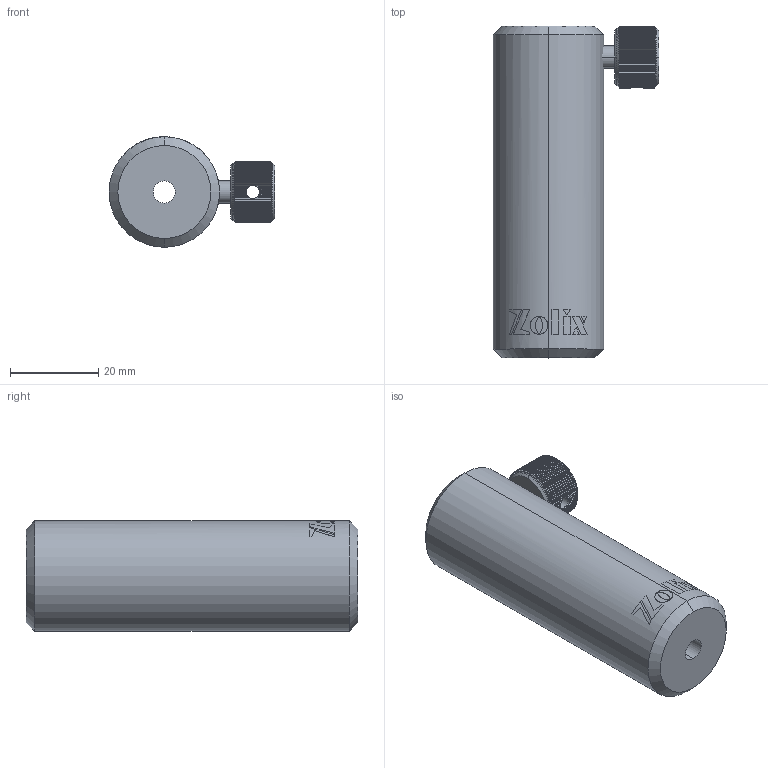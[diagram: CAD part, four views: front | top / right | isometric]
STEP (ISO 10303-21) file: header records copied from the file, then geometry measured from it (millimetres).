
FILE_DESCRIPTION (( 'STEP AP203' ), '1' );
FILE_NAME ('PHSH-3.step', '2019-05-09T09:07:14', ( '' ), ( '' ), 'SwSTEP 2.0', 'SolidWorks 2016', '' );
FILE_SCHEMA (( 'CONFIG_CONTROL_DESIGN' ));
Length unit declared in the file: millimetre
Products named in the file (1): PHSH-3
Bounding box: 37.5 x 75 x 25 mm (x, y, z)
Surface area: 9732.9 mm2 (no closed solid volume)
Topology: 0 solids, 5 shells, 358 faces, 1286 edges, 932 vertices
Faces by surface type: plane 215, cylinder 127, cone 8, bspline 8
Entity records: 14567 total; most frequent: CARTESIAN_POINT 4805, ORIENTED_EDGE 2296, DIRECTION 1528, EDGE_CURVE 1286, VERTEX_POINT 932, B_SPLINE_CURVE_WITH_KNOTS 646, AXIS2_PLACEMENT_3D 589, EDGE_LOOP 373
